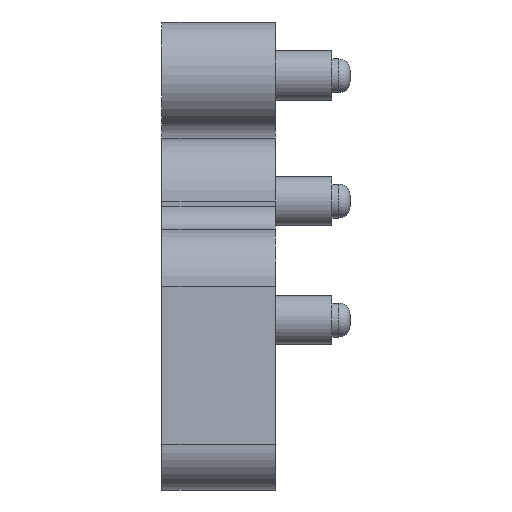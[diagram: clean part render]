
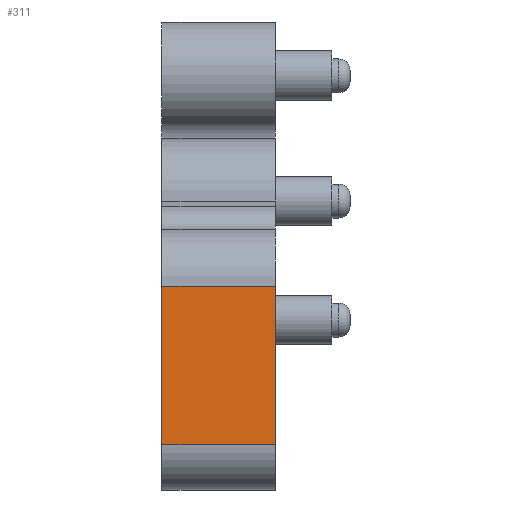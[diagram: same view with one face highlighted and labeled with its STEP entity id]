
A CAD part, left-side view. The second image highlights one B-rep face of the part: STEP entity #311.
In plain terms, the highlighted planar face has unit normal (-1, 0, 0).
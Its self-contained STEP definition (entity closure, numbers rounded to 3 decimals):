
#57 = EDGE_CURVE ( 'NONE', #495, #496, #2857, .T. ) ;
#67 = EDGE_CURVE ( 'NONE', #413, #496, #2887, .T. ) ;
#68 = EDGE_CURVE ( 'NONE', #495, #414, #2890, .T. ) ;
#176 = VECTOR ( 'NONE', #1993, 1000. ) ;
#209 = VECTOR ( 'NONE', #2892, 1000. ) ;
#218 = VECTOR ( 'NONE', #2859, 1000. ) ;
#220 = VECTOR ( 'NONE', #2889, 1000. ) ;
#311 = ADVANCED_FACE ( 'NONE', ( #3416 ), #3245, .T. ) ;
#413 = VERTEX_POINT ( 'NONE', #1525 ) ;
#414 = VERTEX_POINT ( 'NONE', #1526 ) ;
#495 = VERTEX_POINT ( 'NONE', #1607 ) ;
#496 = VERTEX_POINT ( 'NONE', #1608 ) ;
#583 = EDGE_LOOP ( 'NONE', ( #2599, #2598, #2601, #2597 ) ) ;
#827 = AXIS2_PLACEMENT_3D ( 'NONE', #3246, #3247, #3248 ) ;
#1245 = EDGE_CURVE ( 'NONE', #414, #413, #1991, .T. ) ;
#1525 = CARTESIAN_POINT ( 'NONE',  ( -35.5, -5., 1.25 ) ) ;
#1526 = CARTESIAN_POINT ( 'NONE',  ( -35.5, -5., -5.75 ) ) ;
#1607 = CARTESIAN_POINT ( 'NONE',  ( -35.5, 0., -5.75 ) ) ;
#1608 = CARTESIAN_POINT ( 'NONE',  ( -35.5, 0., 1.25 ) ) ;
#1991 = LINE ( 'NONE', #1992, #176 ) ;
#1992 = CARTESIAN_POINT ( 'NONE',  ( -35.5, -5., 7.75 ) ) ;
#1993 = DIRECTION ( 'NONE',  ( 0., 0., 1. ) ) ;
#2597 = ORIENTED_EDGE ( 'NONE', *, *, #68, .T. ) ;
#2598 = ORIENTED_EDGE ( 'NONE', *, *, #67, .T. ) ;
#2599 = ORIENTED_EDGE ( 'NONE', *, *, #1245, .T. ) ;
#2601 = ORIENTED_EDGE ( 'NONE', *, *, #57, .F. ) ;
#2857 = LINE ( 'NONE', #2858, #218 ) ;
#2858 = CARTESIAN_POINT ( 'NONE',  ( -35.5, 0., 7.75 ) ) ;
#2859 = DIRECTION ( 'NONE',  ( 0., 0., 1. ) ) ;
#2887 = LINE ( 'NONE', #2888, #220 ) ;
#2888 = CARTESIAN_POINT ( 'NONE',  ( -35.5, -5., 1.25 ) ) ;
#2889 = DIRECTION ( 'NONE',  ( 0., 1., 0. ) ) ;
#2890 = LINE ( 'NONE', #2891, #209 ) ;
#2891 = CARTESIAN_POINT ( 'NONE',  ( -35.5, -5., -5.75 ) ) ;
#2892 = DIRECTION ( 'NONE',  ( 0., -1., 0. ) ) ;
#3245 = PLANE ( 'NONE',  #827 ) ;
#3246 = CARTESIAN_POINT ( 'NONE',  ( -35.5, -5., 7.75 ) ) ;
#3247 = DIRECTION ( 'NONE',  ( -1., 0., 0. ) ) ;
#3248 = DIRECTION ( 'NONE',  ( 0., 0., 1. ) ) ;
#3416 = FACE_OUTER_BOUND ( 'NONE', #583, .T. ) ;
